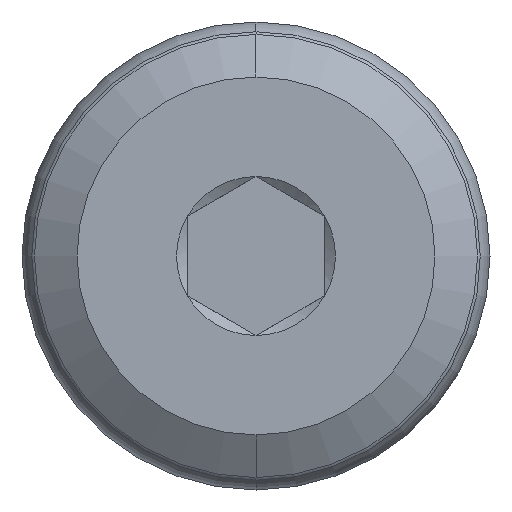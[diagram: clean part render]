
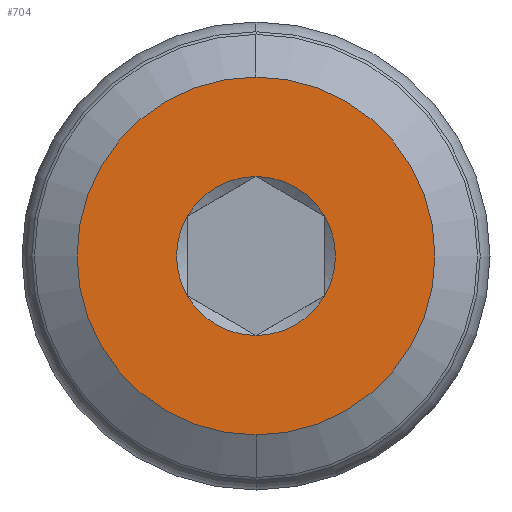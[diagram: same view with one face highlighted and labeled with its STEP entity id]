
A CAD part, left-side view. The second image highlights one B-rep face of the part: STEP entity #704.
In plain terms, the highlighted planar face has unit normal (-1, 0, 0).
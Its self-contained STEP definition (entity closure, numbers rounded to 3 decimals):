
#12 = DIRECTION ( 'NONE',  ( 1., 0., 0. ) ) ;
#17 = AXIS2_PLACEMENT_3D ( 'NONE', #326, #204, #134 ) ;
#18 = VERTEX_POINT ( 'NONE', #514 ) ;
#21 = CARTESIAN_POINT ( 'NONE',  ( 0., 3.25, 0. ) ) ;
#22 = DIRECTION ( 'NONE',  ( 0., 0., -1. ) ) ;
#31 = AXIS2_PLACEMENT_3D ( 'NONE', #220, #765, #339 ) ;
#35 = VERTEX_POINT ( 'NONE', #676 ) ;
#40 = ORIENTED_EDGE ( 'NONE', *, *, #280, .T. ) ;
#45 = VERTEX_POINT ( 'NONE', #665 ) ;
#57 = DIRECTION ( 'NONE',  ( 1., 0., 0. ) ) ;
#66 = CARTESIAN_POINT ( 'NONE',  ( 0., 0., 0. ) ) ;
#76 = DIRECTION ( 'NONE',  ( -1., 0., 0. ) ) ;
#82 = VERTEX_POINT ( 'NONE', #295 ) ;
#83 = FACE_OUTER_BOUND ( 'NONE', #252, .T. ) ;
#106 = CIRCLE ( 'NONE', #211, 3.25 ) ;
#134 = DIRECTION ( 'NONE',  ( 0., 0., -1. ) ) ;
#141 = ORIENTED_EDGE ( 'NONE', *, *, #784, .F. ) ;
#166 = DIRECTION ( 'NONE',  ( 1., 0., 0. ) ) ;
#167 = EDGE_CURVE ( 'NONE', #45, #441, #723, .T. ) ;
#172 = AXIS2_PLACEMENT_3D ( 'NONE', #618, #12, #22 ) ;
#175 = DIRECTION ( 'NONE',  ( 0., 0., -1. ) ) ;
#204 = DIRECTION ( 'NONE',  ( 1., 0., 0. ) ) ;
#211 = AXIS2_PLACEMENT_3D ( 'NONE', #451, #567, #496 ) ;
#219 = EDGE_CURVE ( 'NONE', #369, #378, #647, .T. ) ;
#220 = CARTESIAN_POINT ( 'NONE',  ( 0., 0., 0. ) ) ;
#249 = AXIS2_PLACEMENT_3D ( 'NONE', #298, #668, #301 ) ;
#252 = EDGE_LOOP ( 'NONE', ( #141, #599 ) ) ;
#257 = ORIENTED_EDGE ( 'NONE', *, *, #562, .T. ) ;
#280 = EDGE_CURVE ( 'NONE', #566, #369, #484, .T. ) ;
#295 = CARTESIAN_POINT ( 'NONE',  ( 0., 1.25, 0.722 ) ) ;
#298 = CARTESIAN_POINT ( 'NONE',  ( 0., 0., 0. ) ) ;
#301 = DIRECTION ( 'NONE',  ( 0., 0., -1. ) ) ;
#304 = EDGE_CURVE ( 'NONE', #441, #82, #782, .T. ) ;
#317 = AXIS2_PLACEMENT_3D ( 'NONE', #21, #76, #393 ) ;
#326 = CARTESIAN_POINT ( 'NONE',  ( 0., 0., 0. ) ) ;
#329 = PLANE ( 'NONE',  #317 ) ;
#339 = DIRECTION ( 'NONE',  ( 0., 0., -1. ) ) ;
#355 = EDGE_LOOP ( 'NONE', ( #750, #40, #625, #257, #662, #632 ) ) ;
#369 = VERTEX_POINT ( 'NONE', #766 ) ;
#378 = VERTEX_POINT ( 'NONE', #522 ) ;
#384 = CIRCLE ( 'NONE', #31, 3.25 ) ;
#393 = DIRECTION ( 'NONE',  ( 0., 0., 1. ) ) ;
#408 = AXIS2_PLACEMENT_3D ( 'NONE', #429, #57, #175 ) ;
#416 = DIRECTION ( 'NONE',  ( 0., 0., -1. ) ) ;
#429 = CARTESIAN_POINT ( 'NONE',  ( 0., 0., 0. ) ) ;
#432 = AXIS2_PLACEMENT_3D ( 'NONE', #624, #453, #688 ) ;
#441 = VERTEX_POINT ( 'NONE', #758 ) ;
#451 = CARTESIAN_POINT ( 'NONE',  ( 0., 0., 0. ) ) ;
#453 = DIRECTION ( 'NONE',  ( 1., 0., 0. ) ) ;
#484 = CIRCLE ( 'NONE', #17, 1.443 ) ;
#496 = DIRECTION ( 'NONE',  ( 0., 0., -1. ) ) ;
#514 = CARTESIAN_POINT ( 'NONE',  ( 0., 0., -3.25 ) ) ;
#522 = CARTESIAN_POINT ( 'NONE',  ( 0., -1.25, -0.722 ) ) ;
#557 = EDGE_CURVE ( 'NONE', #82, #566, #644, .T. ) ;
#558 = FACE_BOUND ( 'NONE', #355, .T. ) ;
#562 = EDGE_CURVE ( 'NONE', #378, #45, #699, .T. ) ;
#566 = VERTEX_POINT ( 'NONE', #611 ) ;
#567 = DIRECTION ( 'NONE',  ( 1., 0., 0. ) ) ;
#599 = ORIENTED_EDGE ( 'NONE', *, *, #669, .F. ) ;
#611 = CARTESIAN_POINT ( 'NONE',  ( 0., 0., 1.443 ) ) ;
#618 = CARTESIAN_POINT ( 'NONE',  ( 0., 0., 0. ) ) ;
#624 = CARTESIAN_POINT ( 'NONE',  ( 0., 0., 0. ) ) ;
#625 = ORIENTED_EDGE ( 'NONE', *, *, #219, .T. ) ;
#632 = ORIENTED_EDGE ( 'NONE', *, *, #304, .T. ) ;
#644 = CIRCLE ( 'NONE', #249, 1.443 ) ;
#647 = CIRCLE ( 'NONE', #172, 1.443 ) ;
#660 = AXIS2_PLACEMENT_3D ( 'NONE', #66, #166, #416 ) ;
#662 = ORIENTED_EDGE ( 'NONE', *, *, #167, .T. ) ;
#665 = CARTESIAN_POINT ( 'NONE',  ( 0., 0., -1.443 ) ) ;
#668 = DIRECTION ( 'NONE',  ( 1., 0., 0. ) ) ;
#669 = EDGE_CURVE ( 'NONE', #35, #18, #106, .T. ) ;
#676 = CARTESIAN_POINT ( 'NONE',  ( 0., 0., 3.25 ) ) ;
#688 = DIRECTION ( 'NONE',  ( 0., 0., -1. ) ) ;
#699 = CIRCLE ( 'NONE', #408, 1.443 ) ;
#704 = ADVANCED_FACE ( 'NONE', ( #558, #83 ), #329, .T. ) ;
#723 = CIRCLE ( 'NONE', #660, 1.443 ) ;
#750 = ORIENTED_EDGE ( 'NONE', *, *, #557, .T. ) ;
#758 = CARTESIAN_POINT ( 'NONE',  ( 0., 1.25, -0.722 ) ) ;
#765 = DIRECTION ( 'NONE',  ( 1., 0., 0. ) ) ;
#766 = CARTESIAN_POINT ( 'NONE',  ( 0., -1.25, 0.722 ) ) ;
#782 = CIRCLE ( 'NONE', #432, 1.443 ) ;
#784 = EDGE_CURVE ( 'NONE', #18, #35, #384, .T. ) ;
